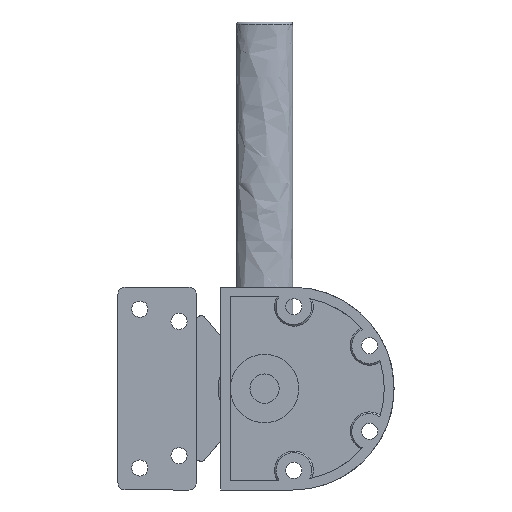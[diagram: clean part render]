
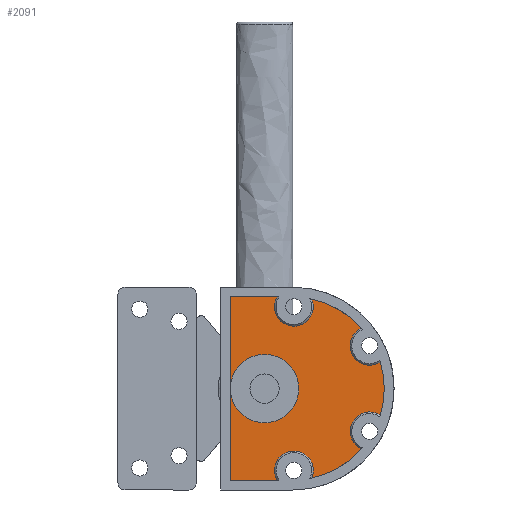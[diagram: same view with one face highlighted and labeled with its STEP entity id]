
A CAD part, front view. The second image highlights one B-rep face of the part: STEP entity #2091.
In plain terms, the highlighted planar face has unit normal (0, -1, 0).
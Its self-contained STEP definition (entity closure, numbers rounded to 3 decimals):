
#19 = ORIENTED_EDGE ( 'NONE', *, *, #5384, .F. ) ;
#32 = EDGE_CURVE ( 'NONE', #597, #794, #396, .T. ) ;
#60 = CARTESIAN_POINT ( 'NONE',  ( 61., 3., -17.5 ) ) ;
#104 = DIRECTION ( 'NONE',  ( 0., 0., 1. ) ) ;
#112 = CARTESIAN_POINT ( 'NONE',  ( 23.122, 3., 37.5 ) ) ;
#117 = CARTESIAN_POINT ( 'NONE',  ( 37.293, 3., 36.681 ) ) ;
#188 = ORIENTED_EDGE ( 'NONE', *, *, #3601, .T. ) ;
#258 = VERTEX_POINT ( 'NONE', #4101 ) ;
#327 = AXIS2_PLACEMENT_3D ( 'NONE', #5047, #1319, #2972 ) ;
#396 = CIRCLE ( 'NONE', #5267, 7.957 ) ;
#457 = CARTESIAN_POINT ( 'NONE',  ( 29.5, 3., 0. ) ) ;
#464 = DIRECTION ( 'NONE',  ( 0., 1., 0. ) ) ;
#491 = AXIS2_PLACEMENT_3D ( 'NONE', #2659, #1862, #3027 ) ;
#572 = VECTOR ( 'NONE', #3575, 1000. ) ;
#580 = DIRECTION ( 'NONE',  ( 0., 1., 0. ) ) ;
#597 = VERTEX_POINT ( 'NONE', #4027 ) ;
#619 = VERTEX_POINT ( 'NONE', #3608 ) ;
#688 = AXIS2_PLACEMENT_3D ( 'NONE', #1327, #5133, #2136 ) ;
#695 = CARTESIAN_POINT ( 'NONE',  ( 18., 3., -14. ) ) ;
#724 = ORIENTED_EDGE ( 'NONE', *, *, #4357, .F. ) ;
#794 = VERTEX_POINT ( 'NONE', #4156 ) ;
#806 = DIRECTION ( 'NONE',  ( 0., 1., 0. ) ) ;
#830 = CARTESIAN_POINT ( 'NONE',  ( 29.5, 3., 0. ) ) ;
#843 = VERTEX_POINT ( 'NONE', #3364 ) ;
#850 = VECTOR ( 'NONE', #2105, 1000. ) ;
#855 = ORIENTED_EDGE ( 'NONE', *, *, #1514, .T. ) ;
#899 = EDGE_CURVE ( 'NONE', #3748, #1171, #3615, .T. ) ;
#958 = CARTESIAN_POINT ( 'NONE',  ( 4., 3., -37.5 ) ) ;
#968 = ORIENTED_EDGE ( 'NONE', *, *, #3704, .F. ) ;
#1024 = AXIS2_PLACEMENT_3D ( 'NONE', #457, #3021, #4651 ) ;
#1035 = CIRCLE ( 'NONE', #5211, 7.957 ) ;
#1076 = DIRECTION ( 'NONE',  ( 0., 1., 0. ) ) ;
#1115 = CIRCLE ( 'NONE', #3984, 37.5 ) ;
#1135 = EDGE_CURVE ( 'NONE', #3748, #2389, #1921, .T. ) ;
#1171 = VERTEX_POINT ( 'NONE', #4074 ) ;
#1232 = VERTEX_POINT ( 'NONE', #4828 ) ;
#1254 = VERTEX_POINT ( 'NONE', #695 ) ;
#1269 = CARTESIAN_POINT ( 'NONE',  ( 30., 3., -33.5 ) ) ;
#1319 = DIRECTION ( 'NONE',  ( 0., 1., 0. ) ) ;
#1320 = CARTESIAN_POINT ( 'NONE',  ( 61., 3., 17.5 ) ) ;
#1327 = CARTESIAN_POINT ( 'NONE',  ( 18., 3., 0. ) ) ;
#1363 = CIRCLE ( 'NONE', #491, 7.957 ) ;
#1444 = DIRECTION ( 'NONE',  ( -1., 0., 0. ) ) ;
#1514 = EDGE_CURVE ( 'NONE', #258, #619, #1363, .T. ) ;
#1523 = CARTESIAN_POINT ( 'NONE',  ( 30., 3., -33.5 ) ) ;
#1582 = CARTESIAN_POINT ( 'NONE',  ( 29.5, 3., 0. ) ) ;
#1694 = CARTESIAN_POINT ( 'NONE',  ( 37.293, 3., -36.681 ) ) ;
#1750 = EDGE_CURVE ( 'NONE', #2389, #2765, #3504, .T. ) ;
#1770 = LINE ( 'NONE', #1852, #2580 ) ;
#1785 = DIRECTION ( 'NONE',  ( 0., 0., 1. ) ) ;
#1805 = EDGE_LOOP ( 'NONE', ( #3191, #2307, #2369, #188, #2220, #4795, #724, #4891, #4538, #4112, #855, #2398, #968, #4405, #19, #3117 ) ) ;
#1852 = CARTESIAN_POINT ( 'NONE',  ( 0., 3., -37.5 ) ) ;
#1862 = DIRECTION ( 'NONE',  ( 0., 1., 0. ) ) ;
#1880 = DIRECTION ( 'NONE',  ( 0., 0., 1. ) ) ;
#1921 = LINE ( 'NONE', #5339, #572 ) ;
#1924 = DIRECTION ( 'NONE',  ( 0., 1., 0. ) ) ;
#2091 = ADVANCED_FACE ( 'NONE', ( #4044 ), #2349, .F. ) ;
#2105 = DIRECTION ( 'NONE',  ( 0., 0., 1. ) ) ;
#2136 = DIRECTION ( 'NONE',  ( 0., 0., 1. ) ) ;
#2162 = EDGE_CURVE ( 'NONE', #4354, #2765, #3009, .T. ) ;
#2171 = VERTEX_POINT ( 'NONE', #958 ) ;
#2187 = DIRECTION ( 'NONE',  ( 0., 1., 0. ) ) ;
#2220 = ORIENTED_EDGE ( 'NONE', *, *, #4800, .T. ) ;
#2236 = VECTOR ( 'NONE', #4351, 1000. ) ;
#2251 = CARTESIAN_POINT ( 'NONE',  ( 65.392, 3., 10.865 ) ) ;
#2307 = ORIENTED_EDGE ( 'NONE', *, *, #1135, .F. ) ;
#2349 = PLANE ( 'NONE',  #5106 ) ;
#2350 = DIRECTION ( 'NONE',  ( 0., 0., 1. ) ) ;
#2369 = ORIENTED_EDGE ( 'NONE', *, *, #899, .T. ) ;
#2389 = VERTEX_POINT ( 'NONE', #4015 ) ;
#2398 = ORIENTED_EDGE ( 'NONE', *, *, #4970, .T. ) ;
#2555 = DIRECTION ( 'NONE',  ( 0., 1., 0. ) ) ;
#2580 = VECTOR ( 'NONE', #1444, 1000. ) ;
#2655 = CIRCLE ( 'NONE', #2840, 37.5 ) ;
#2659 = CARTESIAN_POINT ( 'NONE',  ( 61., 3., -17.5 ) ) ;
#2675 = CIRCLE ( 'NONE', #688, 14. ) ;
#2765 = VERTEX_POINT ( 'NONE', #112 ) ;
#2840 = AXIS2_PLACEMENT_3D ( 'NONE', #830, #3228, #4153 ) ;
#2913 = CARTESIAN_POINT ( 'NONE',  ( 4., 3., 0. ) ) ;
#2927 = AXIS2_PLACEMENT_3D ( 'NONE', #1320, #464, #104 ) ;
#2972 = DIRECTION ( 'NONE',  ( 0., 0., 1. ) ) ;
#3009 = CIRCLE ( 'NONE', #327, 7.957 ) ;
#3010 = AXIS2_PLACEMENT_3D ( 'NONE', #1523, #1076, #2350 ) ;
#3021 = DIRECTION ( 'NONE',  ( 0., 1., 0. ) ) ;
#3027 = DIRECTION ( 'NONE',  ( 0., 0., 1. ) ) ;
#3102 = AXIS2_PLACEMENT_3D ( 'NONE', #3167, #1924, #5218 ) ;
#3117 = ORIENTED_EDGE ( 'NONE', *, *, #2162, .T. ) ;
#3167 = CARTESIAN_POINT ( 'NONE',  ( 18., 3., 0. ) ) ;
#3191 = ORIENTED_EDGE ( 'NONE', *, *, #1750, .F. ) ;
#3227 = DIRECTION ( 'NONE',  ( 0., 0., 1. ) ) ;
#3228 = DIRECTION ( 'NONE',  ( 0., 1., 0. ) ) ;
#3364 = CARTESIAN_POINT ( 'NONE',  ( 57.686, 3., 24.734 ) ) ;
#3488 = EDGE_CURVE ( 'NONE', #794, #5189, #3545, .T. ) ;
#3504 = LINE ( 'NONE', #4761, #2236 ) ;
#3512 = DIRECTION ( 'NONE',  ( 0., 1., 0. ) ) ;
#3545 = CIRCLE ( 'NONE', #3010, 7.957 ) ;
#3575 = DIRECTION ( 'NONE',  ( 0., 0., 1. ) ) ;
#3601 = EDGE_CURVE ( 'NONE', #1171, #1254, #5107, .T. ) ;
#3608 = CARTESIAN_POINT ( 'NONE',  ( 61., 3., -9.543 ) ) ;
#3615 = CIRCLE ( 'NONE', #4304, 14. ) ;
#3704 = EDGE_CURVE ( 'NONE', #4849, #1232, #2655, .T. ) ;
#3748 = VERTEX_POINT ( 'NONE', #2913 ) ;
#3862 = EDGE_CURVE ( 'NONE', #2171, #3748, #4202, .T. ) ;
#3884 = EDGE_CURVE ( 'NONE', #4849, #843, #4852, .T. ) ;
#3984 = AXIS2_PLACEMENT_3D ( 'NONE', #5169, #3512, #1880 ) ;
#4015 = CARTESIAN_POINT ( 'NONE',  ( 4., 3., 37.5 ) ) ;
#4027 = CARTESIAN_POINT ( 'NONE',  ( 23.122, 3., -37.5 ) ) ;
#4044 = FACE_OUTER_BOUND ( 'NONE', #1805, .T. ) ;
#4074 = CARTESIAN_POINT ( 'NONE',  ( 18., 3., 14. ) ) ;
#4101 = CARTESIAN_POINT ( 'NONE',  ( 57.686, 3., -24.734 ) ) ;
#4112 = ORIENTED_EDGE ( 'NONE', *, *, #5195, .F. ) ;
#4153 = DIRECTION ( 'NONE',  ( 0., 0., 1. ) ) ;
#4156 = CARTESIAN_POINT ( 'NONE',  ( 30., 3., -25.543 ) ) ;
#4169 = CIRCLE ( 'NONE', #1024, 37.5 ) ;
#4202 = LINE ( 'NONE', #4578, #850 ) ;
#4304 = AXIS2_PLACEMENT_3D ( 'NONE', #4363, #580, #1785 ) ;
#4351 = DIRECTION ( 'NONE',  ( 1., 0., 0. ) ) ;
#4354 = VERTEX_POINT ( 'NONE', #117 ) ;
#4357 = EDGE_CURVE ( 'NONE', #597, #2171, #1770, .T. ) ;
#4363 = CARTESIAN_POINT ( 'NONE',  ( 18., 3., 0. ) ) ;
#4405 = ORIENTED_EDGE ( 'NONE', *, *, #3884, .T. ) ;
#4538 = ORIENTED_EDGE ( 'NONE', *, *, #3488, .T. ) ;
#4578 = CARTESIAN_POINT ( 'NONE',  ( 4., 3., -41.5 ) ) ;
#4635 = DIRECTION ( 'NONE',  ( 0., 0., 1. ) ) ;
#4651 = DIRECTION ( 'NONE',  ( 0., 0., 1. ) ) ;
#4659 = DIRECTION ( 'NONE',  ( 0., 0., 1. ) ) ;
#4761 = CARTESIAN_POINT ( 'NONE',  ( 0., 3., 37.5 ) ) ;
#4795 = ORIENTED_EDGE ( 'NONE', *, *, #3862, .F. ) ;
#4800 = EDGE_CURVE ( 'NONE', #1254, #3748, #2675, .T. ) ;
#4828 = CARTESIAN_POINT ( 'NONE',  ( 65.392, 3., -10.865 ) ) ;
#4849 = VERTEX_POINT ( 'NONE', #2251 ) ;
#4852 = CIRCLE ( 'NONE', #2927, 7.957 ) ;
#4891 = ORIENTED_EDGE ( 'NONE', *, *, #32, .T. ) ;
#4970 = EDGE_CURVE ( 'NONE', #619, #1232, #1035, .T. ) ;
#5047 = CARTESIAN_POINT ( 'NONE',  ( 30., 3., 33.5 ) ) ;
#5106 = AXIS2_PLACEMENT_3D ( 'NONE', #1582, #806, #3227 ) ;
#5107 = CIRCLE ( 'NONE', #3102, 14. ) ;
#5133 = DIRECTION ( 'NONE',  ( 0., 1., 0. ) ) ;
#5169 = CARTESIAN_POINT ( 'NONE',  ( 29.5, 3., 0. ) ) ;
#5189 = VERTEX_POINT ( 'NONE', #1694 ) ;
#5195 = EDGE_CURVE ( 'NONE', #258, #5189, #4169, .T. ) ;
#5211 = AXIS2_PLACEMENT_3D ( 'NONE', #60, #2555, #4659 ) ;
#5218 = DIRECTION ( 'NONE',  ( 0., 0., 1. ) ) ;
#5267 = AXIS2_PLACEMENT_3D ( 'NONE', #1269, #2187, #4635 ) ;
#5339 = CARTESIAN_POINT ( 'NONE',  ( 4., 3., -41.5 ) ) ;
#5384 = EDGE_CURVE ( 'NONE', #4354, #843, #1115, .T. ) ;
